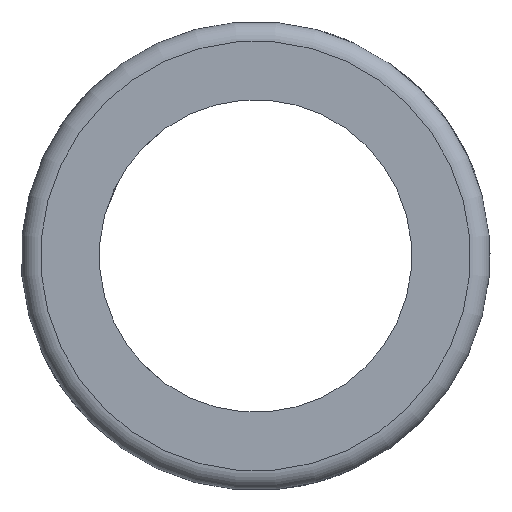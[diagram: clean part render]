
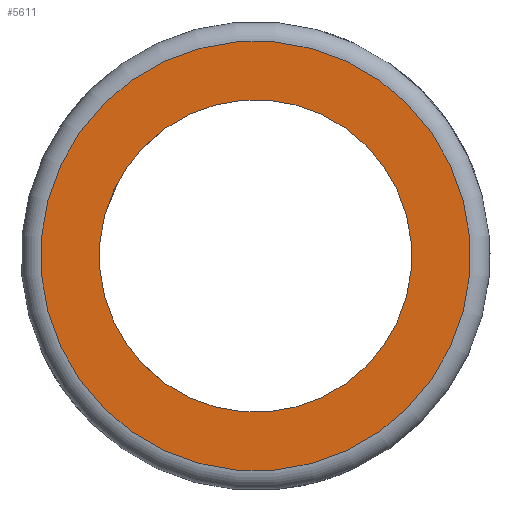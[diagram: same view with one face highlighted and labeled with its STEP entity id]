
A CAD part, left-side view. The second image highlights one B-rep face of the part: STEP entity #5611.
In plain terms, the highlighted planar face has unit normal (-1, 0, 0).
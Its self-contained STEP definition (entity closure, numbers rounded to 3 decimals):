
#125=PLANE('',#6038);
#1742=ORIENTED_EDGE('',*,*,#3439,.T.);
#1743=ORIENTED_EDGE('',*,*,#3424,.T.);
#3424=EDGE_CURVE('',#4273,#4273,#4646,.T.);
#3439=EDGE_CURVE('',#4288,#4288,#4649,.F.);
#4273=VERTEX_POINT('',#8753);
#4288=VERTEX_POINT('',#8809);
#4646=CIRCLE('',#6034,8.);
#4649=CIRCLE('',#6039,11.);
#4784=EDGE_LOOP('',(#1742));
#4785=EDGE_LOOP('',(#1743));
#5192=FACE_BOUND('',#4784,.T.);
#5193=FACE_BOUND('',#4785,.T.);
#5611=ADVANCED_FACE('',(#5192,#5193),#125,.F.);
#6034=AXIS2_PLACEMENT_3D('',#8752,#6600,#6601);
#6038=AXIS2_PLACEMENT_3D('',#8807,#6614,#6615);
#6039=AXIS2_PLACEMENT_3D('',#8808,#6616,#6617);
#6600=DIRECTION('',(1.,0.,0.));
#6601=DIRECTION('',(0.,0.423,-0.906));
#6614=DIRECTION('',(1.,0.,0.));
#6615=DIRECTION('',(0.,0.423,-0.906));
#6616=DIRECTION('',(1.,0.,0.));
#6617=DIRECTION('',(0.,0.423,-0.906));
#8752=CARTESIAN_POINT('',(-15.,0.,0.));
#8753=CARTESIAN_POINT('',(-15.,3.381,-7.25));
#8807=CARTESIAN_POINT('',(-15.,0.,0.));
#8808=CARTESIAN_POINT('',(-15.,0.,0.));
#8809=CARTESIAN_POINT('',(-15.,4.649,-9.969));
